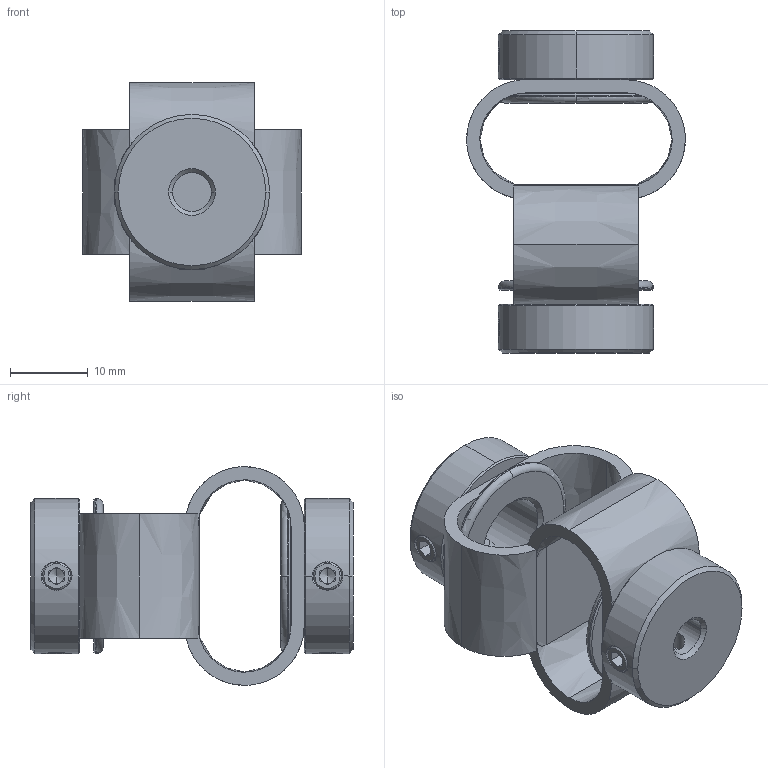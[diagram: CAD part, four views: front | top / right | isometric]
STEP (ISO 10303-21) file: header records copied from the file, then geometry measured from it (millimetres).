
FILE_DESCRIPTION (( 'STEP AP203' ), '1' );
FILE_NAME ('LS-D-D27L40-5-10.STEP', '2021-10-28T06:10:50', ( '' ), ( '' ), 'SwSTEP 2.0', 'SolidWorks 2018', '' );
FILE_SCHEMA (( 'CONFIG_CONTROL_DESIGN' ));
Length unit declared in the file: millimetre
Products named in the file (1): LS-D-D27L40-5-10
Bounding box: 28.2 x 41.54 x 28.2 mm (x, y, z)
Volume: 6946.3 mm3; surface area: 6683.3 mm2
Topology: 1 solids, 1 shells, 202 faces, 520 edges, 324 vertices
Faces by surface type: plane 86, cone 66, cylinder 30, bspline 16, torus 4
Entity records: 8063 total; most frequent: CARTESIAN_POINT 3251, ORIENTED_EDGE 1024, DIRECTION 930, EDGE_CURVE 512, AXIS2_PLACEMENT_3D 365, VERTEX_POINT 324, EDGE_LOOP 230, ADVANCED_FACE 202
